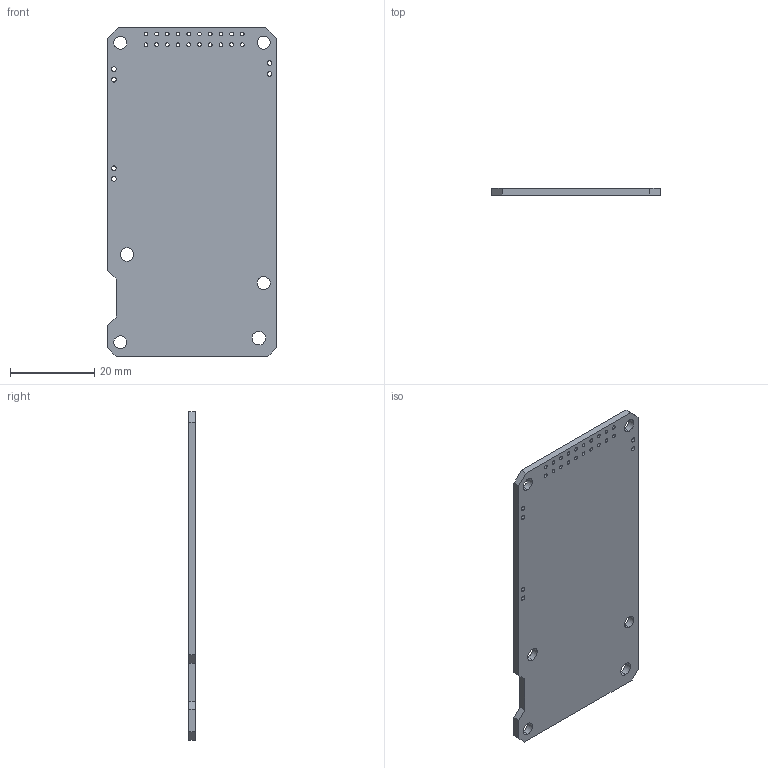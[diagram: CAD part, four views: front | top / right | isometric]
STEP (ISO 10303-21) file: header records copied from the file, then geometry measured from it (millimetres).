
FILE_DESCRIPTION (( 'STEP AP214' ), '1' );
FILE_NAME ('ﾒ裲鸙頸 ﾒﾕ.STEP', '2026-07-10T06:37:19', ( '' ), ( '' ), 'SwSTEP 2.0', 'SolidWorks 2026', '' );
FILE_SCHEMA (( 'AUTOMOTIVE_DESIGN' ));
Length unit declared in the file: millimetre
Products named in the file (1): Текстолит ТХ
Bounding box: 40 x 1.6 x 77.85 mm (x, y, z)
Volume: 4827.6 mm3; surface area: 6622.8 mm2
Topology: 1 solids, 1 shells, 78 faces, 228 edges, 152 vertices
Faces by surface type: cylinder 64, plane 14
Entity records: 2822 total; most frequent: DIRECTION 514, CARTESIAN_POINT 459, ORIENTED_EDGE 456, EDGE_CURVE 228, AXIS2_PLACEMENT_3D 207, VERTEX_POINT 152, EDGE_LOOP 142, CIRCLE 128
